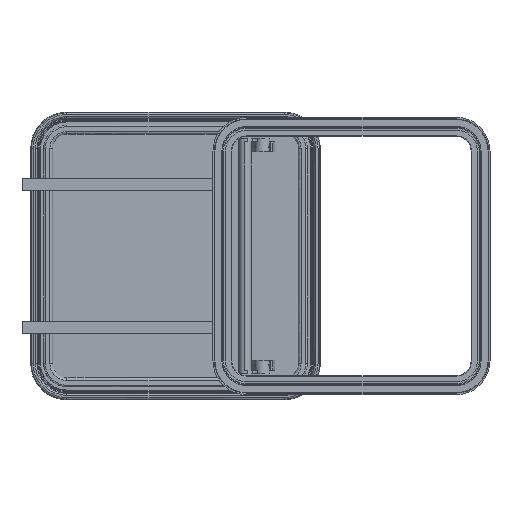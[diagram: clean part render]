
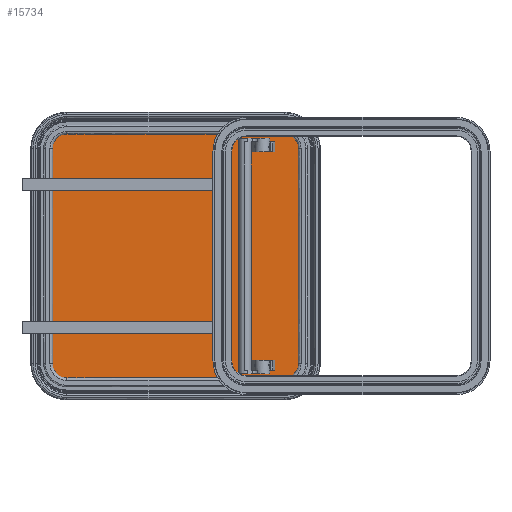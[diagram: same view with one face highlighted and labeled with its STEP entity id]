
A CAD part, front view. The second image highlights one B-rep face of the part: STEP entity #15734.
In plain terms, the highlighted planar face has unit normal (0, -1, 0).
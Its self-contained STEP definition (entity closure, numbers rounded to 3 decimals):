
#14979=CARTESIAN_POINT('',(-213.,0.,215.));
#14980=DIRECTION('',(0.,1.,0.));
#14981=DIRECTION('',(-1.,0.,0.));
#14982=AXIS2_PLACEMENT_3D('',#14979,#14980,#14981);
#14984=CARTESIAN_POINT('',(213.,0.,215.));
#14985=DIRECTION('',(0.,1.,0.));
#14986=DIRECTION('',(0.,0.,1.));
#14987=AXIS2_PLACEMENT_3D('',#14984,#14985,#14986);
#14989=CARTESIAN_POINT('',(213.,0.,-215.));
#14990=DIRECTION('',(0.,1.,0.));
#14991=DIRECTION('',(1.,0.,0.));
#14992=AXIS2_PLACEMENT_3D('',#14989,#14990,#14991);
#14994=CARTESIAN_POINT('',(-213.,0.,-215.));
#14995=DIRECTION('',(0.,1.,0.));
#14996=DIRECTION('',(0.,0.,-1.));
#14997=AXIS2_PLACEMENT_3D('',#14994,#14995,#14996);
#14999=CARTESIAN_POINT('',(-218.5,0.,159.5));
#15000=DIRECTION('',(0.,-1.,0.));
#15001=DIRECTION('',(-1.,0.,0.));
#15002=AXIS2_PLACEMENT_3D('',#14999,#15000,#15001);
#15004=CARTESIAN_POINT('',(-218.5,0.,159.5));
#15005=DIRECTION('',(0.,-1.,0.));
#15006=DIRECTION('',(0.,0.,-1.));
#15007=AXIS2_PLACEMENT_3D('',#15004,#15005,#15006);
#15009=DIRECTION('',(0.,0.,1.));
#15010=VECTOR('',#15009,29.);
#15011=CARTESIAN_POINT('',(-213.,0.,159.5));
#15012=LINE('',#15011,#15010);
#15013=CARTESIAN_POINT('',(-218.5,0.,188.5));
#15014=DIRECTION('',(0.,-1.,0.));
#15015=DIRECTION('',(1.,0.,0.));
#15016=AXIS2_PLACEMENT_3D('',#15013,#15014,#15015);
#15018=CARTESIAN_POINT('',(-218.5,0.,188.5));
#15019=DIRECTION('',(0.,-1.,0.));
#15020=DIRECTION('',(0.,0.,1.));
#15021=AXIS2_PLACEMENT_3D('',#15018,#15019,#15020);
#15023=DIRECTION('',(0.,0.,-1.));
#15024=VECTOR('',#15023,29.);
#15025=CARTESIAN_POINT('',(-224.,0.,188.5));
#15026=LINE('',#15025,#15024);
#15027=CARTESIAN_POINT('',(218.5,0.,159.5));
#15028=DIRECTION('',(0.,-1.,0.));
#15029=DIRECTION('',(-1.,0.,0.));
#15030=AXIS2_PLACEMENT_3D('',#15027,#15028,#15029);
#15032=CARTESIAN_POINT('',(218.5,0.,159.5));
#15033=DIRECTION('',(0.,-1.,0.));
#15034=DIRECTION('',(0.,0.,-1.));
#15035=AXIS2_PLACEMENT_3D('',#15032,#15033,#15034);
#15037=CARTESIAN_POINT('',(218.5,0.,188.5));
#15038=DIRECTION('',(0.,-1.,0.));
#15039=DIRECTION('',(1.,0.,0.));
#15040=AXIS2_PLACEMENT_3D('',#15037,#15038,#15039);
#15042=CARTESIAN_POINT('',(218.5,0.,188.5));
#15043=DIRECTION('',(0.,-1.,0.));
#15044=DIRECTION('',(0.,0.,1.));
#15045=AXIS2_PLACEMENT_3D('',#15042,#15043,#15044);
#15047=DIRECTION('',(0.,0.,-1.));
#15048=VECTOR('',#15047,430.);
#15049=CARTESIAN_POINT('',(-269.5,0.,215.));
#15050=LINE('',#15049,#15048);
#15115=DIRECTION('',(1.,0.,0.));
#15116=VECTOR('',#15115,426.);
#15117=CARTESIAN_POINT('',(-213.,0.,-271.5));
#15118=LINE('',#15117,#15116);
#15127=DIRECTION('',(0.,0.,1.));
#15128=VECTOR('',#15127,430.);
#15129=CARTESIAN_POINT('',(269.5,0.,-215.));
#15130=LINE('',#15129,#15128);
#15139=DIRECTION('',(-1.,0.,0.));
#15140=VECTOR('',#15139,426.);
#15141=CARTESIAN_POINT('',(213.,0.,271.5));
#15142=LINE('',#15141,#15140);
#15459=DIRECTION('',(0.,0.,1.));
#15460=VECTOR('',#15459,29.);
#15461=CARTESIAN_POINT('',(213.,0.,159.5));
#15462=LINE('',#15461,#15460);
#15471=DIRECTION('',(0.,0.,-1.));
#15472=VECTOR('',#15471,29.);
#15473=CARTESIAN_POINT('',(224.,0.,188.5));
#15474=LINE('',#15473,#15472);
#15523=CARTESIAN_POINT('',(-269.5,0.,215.));
#15524=CARTESIAN_POINT('',(-269.5,0.,-215.));
#15525=VERTEX_POINT('',#15523);
#15526=VERTEX_POINT('',#15524);
#15527=CARTESIAN_POINT('',(-213.,0.,271.5));
#15528=VERTEX_POINT('',#15527);
#15529=CARTESIAN_POINT('',(213.,0.,271.5));
#15530=VERTEX_POINT('',#15529);
#15531=CARTESIAN_POINT('',(269.5,0.,215.));
#15532=VERTEX_POINT('',#15531);
#15533=CARTESIAN_POINT('',(269.5,0.,-215.));
#15534=VERTEX_POINT('',#15533);
#15535=CARTESIAN_POINT('',(213.,0.,-271.5));
#15536=VERTEX_POINT('',#15535);
#15537=CARTESIAN_POINT('',(-213.,0.,-271.5));
#15538=VERTEX_POINT('',#15537);
#15539=CARTESIAN_POINT('',(-218.5,0.,154.));
#15540=CARTESIAN_POINT('',(-213.,0.,159.5));
#15541=VERTEX_POINT('',#15539);
#15542=VERTEX_POINT('',#15540);
#15543=CARTESIAN_POINT('',(-224.,0.,159.5));
#15544=VERTEX_POINT('',#15543);
#15545=CARTESIAN_POINT('',(-213.,0.,188.5));
#15546=VERTEX_POINT('',#15545);
#15547=CARTESIAN_POINT('',(-218.5,0.,194.));
#15548=CARTESIAN_POINT('',(-224.,0.,188.5));
#15549=VERTEX_POINT('',#15547);
#15550=VERTEX_POINT('',#15548);
#15551=CARTESIAN_POINT('',(213.,0.,159.5));
#15552=CARTESIAN_POINT('',(218.5,0.,154.));
#15553=VERTEX_POINT('',#15551);
#15554=VERTEX_POINT('',#15552);
#15555=CARTESIAN_POINT('',(224.,0.,159.5));
#15556=VERTEX_POINT('',#15555);
#15557=CARTESIAN_POINT('',(224.,0.,188.5));
#15558=VERTEX_POINT('',#15557);
#15559=CARTESIAN_POINT('',(218.5,0.,194.));
#15560=VERTEX_POINT('',#15559);
#15561=CARTESIAN_POINT('',(213.,0.,188.5));
#15562=VERTEX_POINT('',#15561);
#15683=CARTESIAN_POINT('',(0.,0.,0.));
#15684=DIRECTION('',(0.,1.,0.));
#15685=DIRECTION('',(1.,0.,0.));
#15686=AXIS2_PLACEMENT_3D('',#15683,#15684,#15685);
#15687=PLANE('',#15686);
#15689=ORIENTED_EDGE('',*,*,#15688,.F.);
#15691=ORIENTED_EDGE('',*,*,#15690,.T.);
#15693=ORIENTED_EDGE('',*,*,#15692,.F.);
#15695=ORIENTED_EDGE('',*,*,#15694,.T.);
#15697=ORIENTED_EDGE('',*,*,#15696,.F.);
#15699=ORIENTED_EDGE('',*,*,#15698,.T.);
#15701=ORIENTED_EDGE('',*,*,#15700,.F.);
#15703=ORIENTED_EDGE('',*,*,#15702,.T.);
#15704=EDGE_LOOP('',(#15689,#15691,#15693,#15695,#15697,#15699,#15701,#15703));
#15705=FACE_OUTER_BOUND('',#15704,.F.);
#15707=ORIENTED_EDGE('',*,*,#15706,.T.);
#15709=ORIENTED_EDGE('',*,*,#15708,.T.);
#15711=ORIENTED_EDGE('',*,*,#15710,.T.);
#15713=ORIENTED_EDGE('',*,*,#15712,.T.);
#15715=ORIENTED_EDGE('',*,*,#15714,.T.);
#15717=ORIENTED_EDGE('',*,*,#15716,.T.);
#15718=EDGE_LOOP('',(#15707,#15709,#15711,#15713,#15715,#15717));
#15719=FACE_BOUND('',#15718,.F.);
#15721=ORIENTED_EDGE('',*,*,#15720,.T.);
#15723=ORIENTED_EDGE('',*,*,#15722,.T.);
#15725=ORIENTED_EDGE('',*,*,#15724,.F.);
#15727=ORIENTED_EDGE('',*,*,#15726,.T.);
#15729=ORIENTED_EDGE('',*,*,#15728,.T.);
#15731=ORIENTED_EDGE('',*,*,#15730,.F.);
#15732=EDGE_LOOP('',(#15721,#15723,#15725,#15727,#15729,#15731));
#15733=FACE_BOUND('',#15732,.F.);
#15734=ADVANCED_FACE('',(#15705,#15719,#15733),#15687,.F.);
#14983=CIRCLE('',#14982,56.5);
#14988=CIRCLE('',#14987,56.5);
#14993=CIRCLE('',#14992,56.5);
#14998=CIRCLE('',#14997,56.5);
#15003=CIRCLE('',#15002,5.5);
#15008=CIRCLE('',#15007,5.5);
#15017=CIRCLE('',#15016,5.5);
#15022=CIRCLE('',#15021,5.5);
#15031=CIRCLE('',#15030,5.5);
#15036=CIRCLE('',#15035,5.5);
#15041=CIRCLE('',#15040,5.5);
#15046=CIRCLE('',#15045,5.5);
#15688=EDGE_CURVE('',#15525,#15526,#15050,.T.);
#15690=EDGE_CURVE('',#15525,#15528,#14983,.T.);
#15692=EDGE_CURVE('',#15530,#15528,#15142,.T.);
#15694=EDGE_CURVE('',#15530,#15532,#14988,.T.);
#15696=EDGE_CURVE('',#15534,#15532,#15130,.T.);
#15698=EDGE_CURVE('',#15534,#15536,#14993,.T.);
#15700=EDGE_CURVE('',#15538,#15536,#15118,.T.);
#15702=EDGE_CURVE('',#15538,#15526,#14998,.T.);
#15706=EDGE_CURVE('',#15544,#15541,#15003,.T.);
#15708=EDGE_CURVE('',#15541,#15542,#15008,.T.);
#15710=EDGE_CURVE('',#15542,#15546,#15012,.T.);
#15712=EDGE_CURVE('',#15546,#15549,#15017,.T.);
#15714=EDGE_CURVE('',#15549,#15550,#15022,.T.);
#15716=EDGE_CURVE('',#15550,#15544,#15026,.T.);
#15720=EDGE_CURVE('',#15553,#15554,#15031,.T.);
#15722=EDGE_CURVE('',#15554,#15556,#15036,.T.);
#15724=EDGE_CURVE('',#15558,#15556,#15474,.T.);
#15726=EDGE_CURVE('',#15558,#15560,#15041,.T.);
#15728=EDGE_CURVE('',#15560,#15562,#15046,.T.);
#15730=EDGE_CURVE('',#15553,#15562,#15462,.T.);
